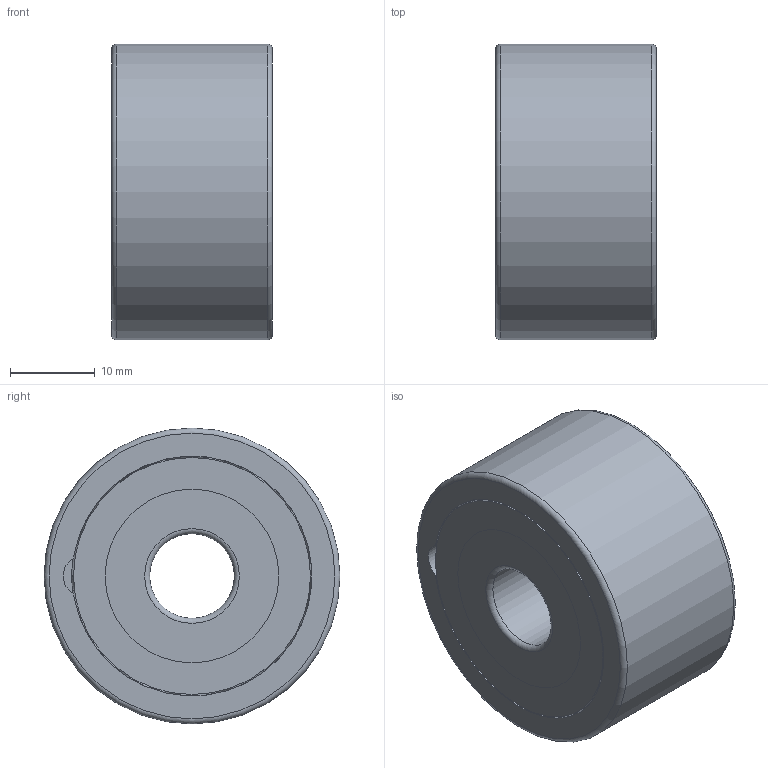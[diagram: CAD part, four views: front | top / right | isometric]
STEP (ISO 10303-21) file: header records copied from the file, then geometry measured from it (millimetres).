
FILE_DESCRIPTION(/* description */ (''),/* implementation_level */ '2;1');
FILE_NAME(/* name */ '3300E-2RS.stp',/* time_stamp */ '2024-11-06T10:19:43+01:00',/* author */ ('OUPIONTEKM'),/* organization */ (''),/* preprocessor_version */ 'ST-DEVELOPER v20',/* originating_system */ 'Autodesk Inventor 2025',/* authorisation */ '');
FILE_SCHEMA (('AUTOMOTIVE_DESIGN { 1 0 10303 214 3 1 1 }'));
Length unit declared in the file: millimetre
Products named in the file (6): 3300E; 3300E-02; 3300E-cage; 3300E-ball; 3300E-01; RS
Assembly tree (33 placements, depth 2):
  3300E
    3300E-02
    3300E-cage  x2
    3300E-ball  x28
    3300E-01
    RS
Bounding box: 19 x 35 x 35 mm (x, y, z)
Volume: 13059.6 mm3; surface area: 11040.5 mm2
Topology: 34 solids, 34 shells, 368 faces, 996 edges, 636 vertices
Faces by surface type: bspline 168, sphere 84, plane 65, cylinder 43, torus 8
Full cylindrical faces by diameter (mm): 10 x1, 18.547 x1, 20.528 x4, 25.3 x2, 26.472 x1, 28.033 x1, 28.354 x2, 35 x1
Entity records: 9242 total; most frequent: CARTESIAN_POINT 4745, ORIENTED_EDGE 980, DIRECTION 694, EDGE_CURVE 490, VERTEX_POINT 314, AXIS2_PLACEMENT_3D 277, B_SPLINE_CURVE_WITH_KNOTS 214, EDGE_LOOP 194
